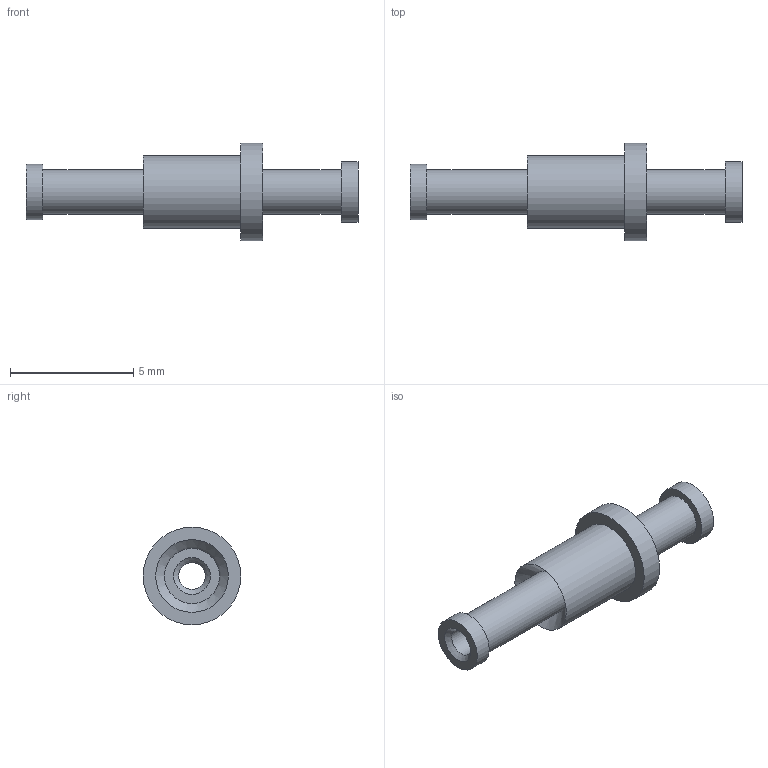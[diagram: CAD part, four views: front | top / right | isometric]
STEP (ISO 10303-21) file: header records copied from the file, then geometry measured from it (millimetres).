
FILE_DESCRIPTION(/* description */ (''),/* implementation_level */ '2;1');
FILE_NAME(/* name */ 'Z:\STEP folder\160-2141-04.ipt.stp',/* time_stamp */ '2016-12-07T10:51:52+00:00',/* author */ ('Paul Karlsons'),/* organization */ (''),/* preprocessor_version */ 'ST-DEVELOPER v15.2',/* originating_system */ 'Autodesk Inventor 2014',/* authorisation */ '');
FILE_SCHEMA (('AUTOMOTIVE_DESIGN { 1 0 10303 214 3 1 1 }'));
Length unit declared in the file: millimetre
Products named in the file (1): 160-2141-04
Bounding box: 13.46 x 3.96 x 3.96 mm (x, y, z)
Volume: 48.4 mm3; surface area: 178.9 mm2
Topology: 1 solids, 1 shells, 16 faces, 27 edges, 17 vertices
Faces by surface type: cylinder 7, plane 6, cone 3
Full cylindrical faces by diameter (mm): 1.09 x1, 1.8 x2, 2.235 x1, 2.438 x1, 2.946 x1, 3.96 x1
Entity records: 349 total; most frequent: DIRECTION 66, CARTESIAN_POINT 49, AXIS2_PLACEMENT_3D 33, EDGE_LOOP 32, ORIENTED_EDGE 32, FACE_BOUND 18, CIRCLE 16, VERTEX_POINT 16
